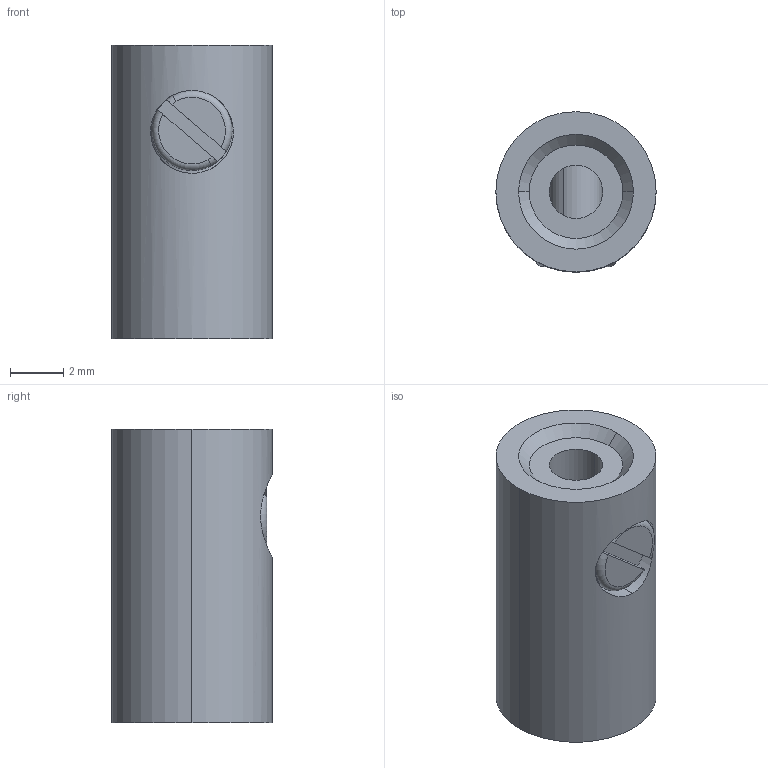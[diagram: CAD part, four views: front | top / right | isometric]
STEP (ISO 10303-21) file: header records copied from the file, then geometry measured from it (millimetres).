
FILE_DESCRIPTION(('CATIA V5 STEP Exchange'),'2;1');
FILE_NAME('X:\XDrive\---CAD---\--- Elektronik ---\Zwergkupplung.stp','2023-02-20T20:07:28+00:00',('none'),('none'),'CATIA Version 5 Release 19 SP 2 (IN-10)','CATIA V5 STEP AP203','none');
FILE_SCHEMA(('CONFIG_CONTROL_DESIGN'));
Length unit declared in the file: millimetre
Products named in the file (1): Zwergkupplung
Bounding box: 6 x 6 x 11 mm (x, y, z)
Volume: 262.8 mm3; surface area: 605.2 mm2
Topology: 3 solids, 3 shells, 36 faces, 80 edges, 52 vertices
Faces by surface type: cylinder 18, plane 12, torus 4, cone 2
Entity records: 1100 total; most frequent: CARTESIAN_POINT 315, ORIENTED_EDGE 160, DIRECTION 116, EDGE_CURVE 80, AXIS2_PLACEMENT_3D 65, VERTEX_POINT 52, EDGE_LOOP 46, CIRCLE 40
